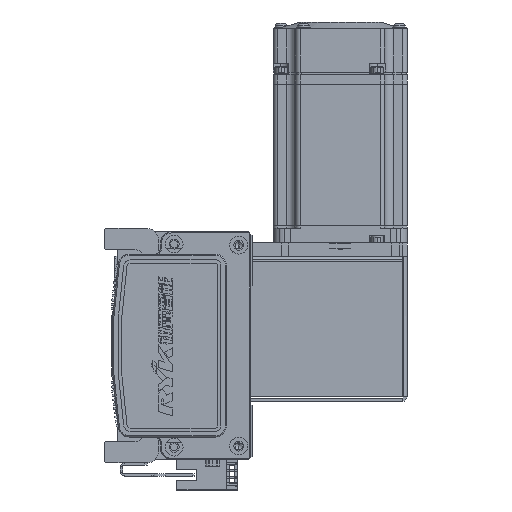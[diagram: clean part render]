
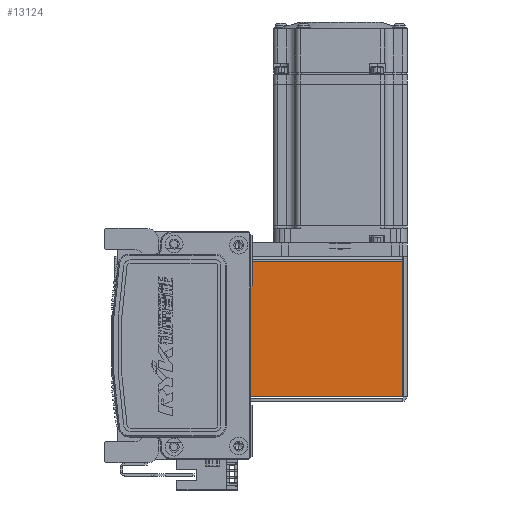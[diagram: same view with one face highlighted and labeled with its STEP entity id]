
A CAD part, left-side view. The second image highlights one B-rep face of the part: STEP entity #13124.
In plain terms, the highlighted planar face has unit normal (-1, 0, 0) as drawn and (0, 0, 1) by its records, which use the part's own axes.
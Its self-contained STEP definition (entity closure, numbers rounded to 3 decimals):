
#1557 = LINE ( 'NONE', #30335, #66789 ) ;
#2395 = CARTESIAN_POINT ( 'NONE',  ( 30.263, 72.5, 35. ) ) ;
#3252 = AXIS2_PLACEMENT_3D ( 'NONE', #4243, #58230, #37625 ) ;
#3429 = DIRECTION ( 'NONE',  ( 0., 1., 0. ) ) ;
#4243 = CARTESIAN_POINT ( 'NONE',  ( 0., 0., 35. ) ) ;
#5680 = CARTESIAN_POINT ( 'NONE',  ( -30.293, 0.737, 35. ) ) ;
#6204 = FACE_OUTER_BOUND ( 'NONE', #64892, .T. ) ;
#6265 = DIRECTION ( 'NONE',  ( -1., 0., 0. ) ) ;
#10155 = DIRECTION ( 'NONE',  ( 0., 1., 0. ) ) ;
#13124 = ADVANCED_FACE ( 'NONE', ( #6204 ), #20152, .F. ) ;
#20152 = PLANE ( 'NONE',  #3252 ) ;
#26387 = CARTESIAN_POINT ( 'NONE',  ( 0., 72.5, 35. ) ) ;
#26571 = VECTOR ( 'NONE', #6265, 1000. ) ;
#30335 = CARTESIAN_POINT ( 'NONE',  ( 30.263, 0.737, 35. ) ) ;
#30366 = VECTOR ( 'NONE', #3429, 1000. ) ;
#31702 = ORIENTED_EDGE ( 'NONE', *, *, #57753, .T. ) ;
#37625 = DIRECTION ( 'NONE',  ( -1., 0., 0. ) ) ;
#37873 = EDGE_CURVE ( 'NONE', #69267, #61310, #67467, .T. ) ;
#39718 = ORIENTED_EDGE ( 'NONE', *, *, #37873, .T. ) ;
#41146 = EDGE_CURVE ( 'NONE', #46393, #61310, #61279, .T. ) ;
#44517 = ORIENTED_EDGE ( 'NONE', *, *, #49399, .F. ) ;
#46393 = VERTEX_POINT ( 'NONE', #5680 ) ;
#47882 = CARTESIAN_POINT ( 'NONE',  ( 30.263, 0.737, 35. ) ) ;
#49399 = EDGE_CURVE ( 'NONE', #64110, #46393, #55756, .T. ) ;
#52434 = CARTESIAN_POINT ( 'NONE',  ( -30.293, 0., 35. ) ) ;
#55151 = DIRECTION ( 'NONE',  ( -1., 0., 0. ) ) ;
#55756 = LINE ( 'NONE', #65956, #26571 ) ;
#57753 = EDGE_CURVE ( 'NONE', #64110, #69267, #1557, .T. ) ;
#58230 = DIRECTION ( 'NONE',  ( 0., 0., -1. ) ) ;
#58509 = ORIENTED_EDGE ( 'NONE', *, *, #41146, .F. ) ;
#61279 = LINE ( 'NONE', #52434, #30366 ) ;
#61310 = VERTEX_POINT ( 'NONE', #62063 ) ;
#62063 = CARTESIAN_POINT ( 'NONE',  ( -30.293, 72.5, 35. ) ) ;
#64110 = VERTEX_POINT ( 'NONE', #47882 ) ;
#64892 = EDGE_LOOP ( 'NONE', ( #31702, #39718, #58509, #44517 ) ) ;
#65956 = CARTESIAN_POINT ( 'NONE',  ( -32.5, 0.737, 35. ) ) ;
#66789 = VECTOR ( 'NONE', #10155, 1000. ) ;
#67467 = LINE ( 'NONE', #26387, #69181 ) ;
#69181 = VECTOR ( 'NONE', #55151, 1000. ) ;
#69267 = VERTEX_POINT ( 'NONE', #2395 ) ;
